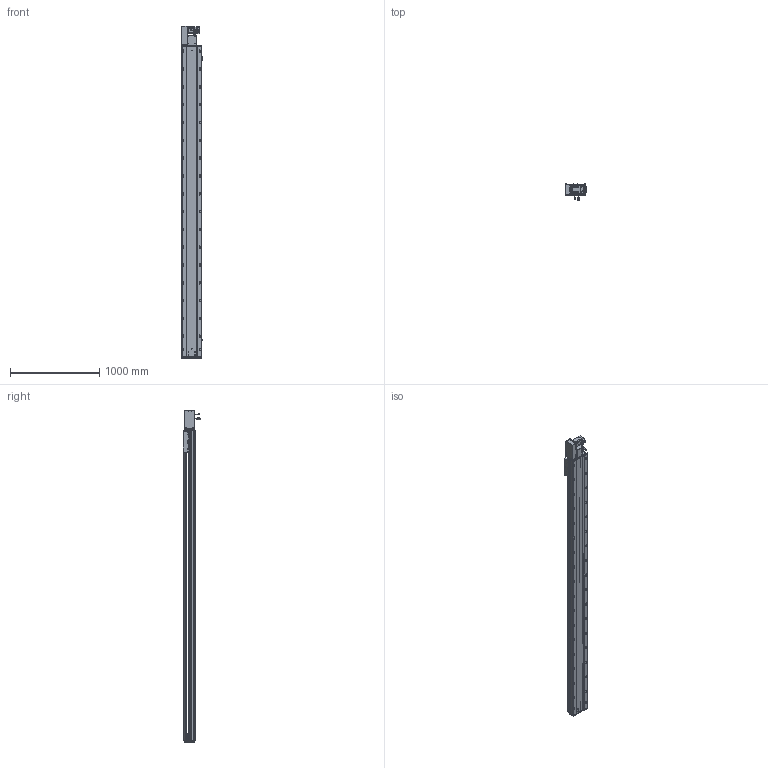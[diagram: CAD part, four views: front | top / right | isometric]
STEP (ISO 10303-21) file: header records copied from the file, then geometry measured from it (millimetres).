
FILE_DESCRIPTION (( 'STEP AP203' ), '1' );
FILE_NAME ('RY220-T-300-LK.SLDASM_3150.step', '2022-07-25T08:16:52', ( '' ), ( '' ), 'SwSTEP 2.0', 'SolidWorks 2016', '' );
FILE_SCHEMA (( 'CONFIG_CONTROL_DESIGN' ));
Length unit declared in the file: millimetre
Products named in the file (14): RY220翋肮祭謫釱; RY220-T-300-奻裔啣_3150; 怢湛750W_ECMA-CX0807ES; 110A-T-肮祭謫釱傷裔; 滅袉蝶18-15; RY220-T菁釱-300_3150; RY220翋肮祭謫裔啣; RY220-俋离672覜茼んえ; RY220-T-蛌殏萇儂假蚾啣(750W); RY220-T-300-LK.SLDASM_3150; RY220-T-湍謫欶(鍼踢); 覜茼ん672; RY220圉猾敕々湍臏賑輸; RY220-同步轮副支撑座6304×2
Assembly tree (18 placements, depth 2):
  RY220-T-300-LK.SLDASM_3150
    RY220-T菁釱-300_3150
    RY220翋肮祭謫釱
    覜茼ん672  x3
    RY220圉猾敕々湍臏賑輸
    RY220-T-300-奻裔啣_3150
    RY220-俋离672覜茼んえ
    滅袉蝶18-15  x3
    RY220翋肮祭謫裔啣  x2
    110A-T-肮祭謫釱傷裔
    怢湛750W_ECMA-CX0807ES
    RY220-T-湍謫欶(鍼踢)
    RY220-T-蛌殏萇儂假蚾啣(750W)
    RY220-同步轮副支撑座6304×2
Bounding box: 239.7 x 198.77 x 3729 mm (x, y, z)
Volume: 26173895.3 mm3; surface area: 8115781.6 mm2
Topology: 19 solids, 19 shells, 3066 faces, 8483 edges, 5302 vertices
Faces by surface type: cylinder 1522, plane 1069, cone 393, bspline 56, sphere 16, torus 10
Entity records: 102243 total; most frequent: CARTESIAN_POINT 28783, ORIENTED_EDGE 15162, DIRECTION 14688, EDGE_CURVE 7581, AXIS2_PLACEMENT_3D 5316, VERTEX_POINT 4926, VECTOR 4056, LINE 4056
